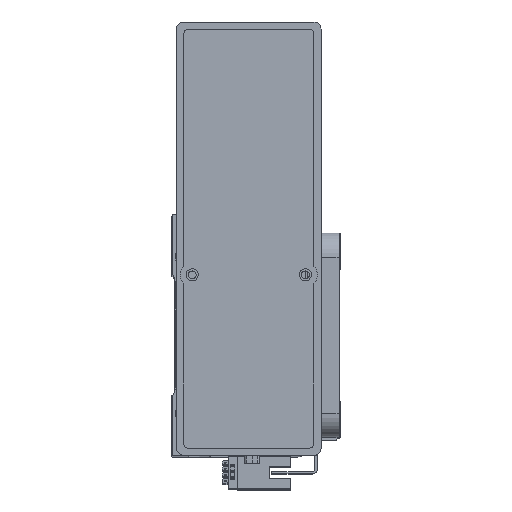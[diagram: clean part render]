
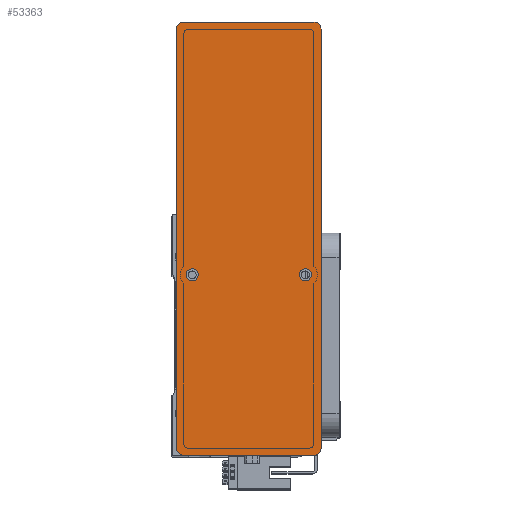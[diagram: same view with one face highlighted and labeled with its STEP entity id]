
A CAD part, top view. The second image highlights one B-rep face of the part: STEP entity #53363.
In plain terms, the highlighted planar face has unit normal (0, 0, 1) as drawn and (0, 0, -1) by its records, which use the part's own axes.
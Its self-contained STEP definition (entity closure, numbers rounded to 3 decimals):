
#23 = AXIS2_PLACEMENT_3D ( 'NONE', #47850, #22494, #52107 ) ;
#90 = CARTESIAN_POINT ( 'NONE',  ( 90., -30., 0. ) ) ;
#143 = VERTEX_POINT ( 'NONE', #48020 ) ;
#892 = ORIENTED_EDGE ( 'NONE', *, *, #28070, .F. ) ;
#942 = DIRECTION ( 'NONE',  ( 1., 0., 0. ) ) ;
#974 = CARTESIAN_POINT ( 'NONE',  ( -15., -23.5, 0. ) ) ;
#985 = VERTEX_POINT ( 'NONE', #19005 ) ;
#1323 = DIRECTION ( 'NONE',  ( 0., 0., 1. ) ) ;
#1537 = ORIENTED_EDGE ( 'NONE', *, *, #14847, .F. ) ;
#2376 = CIRCLE ( 'NONE', #36426, 3. ) ;
#2584 = EDGE_CURVE ( 'NONE', #43165, #26332, #24792, .T. ) ;
#3007 = VECTOR ( 'NONE', #38160, 1000. ) ;
#3748 = CARTESIAN_POINT ( 'NONE',  ( -17.5, 23.5, 0. ) ) ;
#4316 = DIRECTION ( 'NONE',  ( 0., 0., -1. ) ) ;
#4360 = ORIENTED_EDGE ( 'NONE', *, *, #39992, .T. ) ;
#4397 = LINE ( 'NONE', #8331, #48076 ) ;
#5241 = DIRECTION ( 'NONE',  ( -1., 0., 0. ) ) ;
#7582 = EDGE_CURVE ( 'NONE', #27187, #41837, #46904, .T. ) ;
#7603 = CARTESIAN_POINT ( 'NONE',  ( 87., 27., 0. ) ) ;
#7925 = VERTEX_POINT ( 'NONE', #40300 ) ;
#8331 = CARTESIAN_POINT ( 'NONE',  ( 90., 30., 0. ) ) ;
#8343 = EDGE_CURVE ( 'NONE', #28397, #41837, #4397, .T. ) ;
#8919 = LINE ( 'NONE', #20552, #29985 ) ;
#9916 = CARTESIAN_POINT ( 'NONE',  ( -87., 30., 0. ) ) ;
#11342 = VERTEX_POINT ( 'NONE', #40703 ) ;
#11855 = DIRECTION ( 'NONE',  ( 1., 0., 0. ) ) ;
#12072 = ORIENTED_EDGE ( 'NONE', *, *, #34453, .F. ) ;
#12089 = DIRECTION ( 'NONE',  ( 0., 0., -1. ) ) ;
#13204 = EDGE_CURVE ( 'NONE', #7925, #143, #26282, .T. ) ;
#14836 = CIRCLE ( 'NONE', #23, 2.5 ) ;
#14847 = EDGE_CURVE ( 'NONE', #26332, #43165, #14836, .T. ) ;
#15302 = EDGE_CURVE ( 'NONE', #11342, #46276, #41232, .T. ) ;
#15458 = AXIS2_PLACEMENT_3D ( 'NONE', #37362, #12089, #41662 ) ;
#15770 = VERTEX_POINT ( 'NONE', #49651 ) ;
#17092 = CARTESIAN_POINT ( 'NONE',  ( 90., -30., 0. ) ) ;
#17894 = EDGE_CURVE ( 'NONE', #28397, #46276, #26604, .T. ) ;
#18023 = DIRECTION ( 'NONE',  ( 0., 0., -1. ) ) ;
#18167 = PLANE ( 'NONE',  #31287 ) ;
#18181 = AXIS2_PLACEMENT_3D ( 'NONE', #46412, #21071, #50684 ) ;
#18516 = CARTESIAN_POINT ( 'NONE',  ( -87., -30., 0. ) ) ;
#19005 = CARTESIAN_POINT ( 'NONE',  ( 87., -30., 0. ) ) ;
#20324 = AXIS2_PLACEMENT_3D ( 'NONE', #974, #30542, #5241 ) ;
#20552 = CARTESIAN_POINT ( 'NONE',  ( -90., -30., 0. ) ) ;
#21071 = DIRECTION ( 'NONE',  ( 0., 0., -1. ) ) ;
#21352 = DIRECTION ( 'NONE',  ( 0., 1., 0. ) ) ;
#21943 = CARTESIAN_POINT ( 'NONE',  ( -90., 27., 0. ) ) ;
#22008 = AXIS2_PLACEMENT_3D ( 'NONE', #43339, #18023, #47622 ) ;
#22010 = EDGE_LOOP ( 'NONE', ( #1537, #35645 ) ) ;
#22494 = DIRECTION ( 'NONE',  ( 0., 0., -1. ) ) ;
#22531 = AXIS2_PLACEMENT_3D ( 'NONE', #7603, #37138, #11855 ) ;
#24585 = EDGE_LOOP ( 'NONE', ( #892, #28817 ) ) ;
#24792 = CIRCLE ( 'NONE', #22008, 2.5 ) ;
#25440 = LINE ( 'NONE', #90, #3007 ) ;
#25762 = CARTESIAN_POINT ( 'NONE',  ( 90., 27., 0. ) ) ;
#26245 = DIRECTION ( 'NONE',  ( 0., 0., -1. ) ) ;
#26282 = CIRCLE ( 'NONE', #20324, 2.5 ) ;
#26332 = VERTEX_POINT ( 'NONE', #3748 ) ;
#26600 = CARTESIAN_POINT ( 'NONE',  ( 0., 0., 0. ) ) ;
#26604 = CIRCLE ( 'NONE', #22531, 3. ) ;
#27187 = VERTEX_POINT ( 'NONE', #21943 ) ;
#28070 = EDGE_CURVE ( 'NONE', #143, #7925, #49214, .T. ) ;
#28397 = VERTEX_POINT ( 'NONE', #31751 ) ;
#28817 = ORIENTED_EDGE ( 'NONE', *, *, #13204, .F. ) ;
#28986 = EDGE_LOOP ( 'NONE', ( #43776, #54162, #12072, #4360, #29686, #50594, #44726, #30754 ) ) ;
#29597 = CARTESIAN_POINT ( 'NONE',  ( -87., -27., 0. ) ) ;
#29686 = ORIENTED_EDGE ( 'NONE', *, *, #43902, .F. ) ;
#29985 = VECTOR ( 'NONE', #54385, 1000. ) ;
#30542 = DIRECTION ( 'NONE',  ( 0., 0., -1. ) ) ;
#30754 = ORIENTED_EDGE ( 'NONE', *, *, #17894, .T. ) ;
#30889 = DIRECTION ( 'NONE',  ( 1., 0., 0. ) ) ;
#31287 = AXIS2_PLACEMENT_3D ( 'NONE', #26600, #1323, #30889 ) ;
#31751 = CARTESIAN_POINT ( 'NONE',  ( 87., 30., 0. ) ) ;
#32047 = FACE_OUTER_BOUND ( 'NONE', #28986, .T. ) ;
#33866 = DIRECTION ( 'NONE',  ( 1., 0., 0. ) ) ;
#34453 = EDGE_CURVE ( 'NONE', #50312, #985, #25440, .T. ) ;
#35645 = ORIENTED_EDGE ( 'NONE', *, *, #2584, .F. ) ;
#36426 = AXIS2_PLACEMENT_3D ( 'NONE', #51660, #26245, #942 ) ;
#37138 = DIRECTION ( 'NONE',  ( 0., 0., -1. ) ) ;
#37362 = CARTESIAN_POINT ( 'NONE',  ( -15., -23.5, 0. ) ) ;
#37840 = DIRECTION ( 'NONE',  ( -1., 0., 0. ) ) ;
#38160 = DIRECTION ( 'NONE',  ( 1., 0., 0. ) ) ;
#39255 = AXIS2_PLACEMENT_3D ( 'NONE', #29597, #4316, #33866 ) ;
#39839 = VECTOR ( 'NONE', #21352, 1000. ) ;
#39992 = EDGE_CURVE ( 'NONE', #50312, #15770, #44516, .T. ) ;
#40300 = CARTESIAN_POINT ( 'NONE',  ( -12.5, -23.5, 0. ) ) ;
#40703 = CARTESIAN_POINT ( 'NONE',  ( 90., -27., 0. ) ) ;
#41232 = LINE ( 'NONE', #17092, #39839 ) ;
#41662 = DIRECTION ( 'NONE',  ( -1., 0., 0. ) ) ;
#41837 = VERTEX_POINT ( 'NONE', #9916 ) ;
#43165 = VERTEX_POINT ( 'NONE', #52815 ) ;
#43291 = FACE_BOUND ( 'NONE', #24585, .T. ) ;
#43339 = CARTESIAN_POINT ( 'NONE',  ( -15., 23.5, 0. ) ) ;
#43776 = ORIENTED_EDGE ( 'NONE', *, *, #15302, .F. ) ;
#43902 = EDGE_CURVE ( 'NONE', #27187, #15770, #8919, .T. ) ;
#44516 = CIRCLE ( 'NONE', #39255, 3. ) ;
#44726 = ORIENTED_EDGE ( 'NONE', *, *, #8343, .F. ) ;
#46276 = VERTEX_POINT ( 'NONE', #25762 ) ;
#46412 = CARTESIAN_POINT ( 'NONE',  ( -87., 27., 0. ) ) ;
#46904 = CIRCLE ( 'NONE', #18181, 3. ) ;
#47622 = DIRECTION ( 'NONE',  ( -1., 0., 0. ) ) ;
#47850 = CARTESIAN_POINT ( 'NONE',  ( -15., 23.5, 0. ) ) ;
#48020 = CARTESIAN_POINT ( 'NONE',  ( -17.5, -23.5, 0. ) ) ;
#48076 = VECTOR ( 'NONE', #37840, 1000. ) ;
#49214 = CIRCLE ( 'NONE', #15458, 2.5 ) ;
#49651 = CARTESIAN_POINT ( 'NONE',  ( -90., -27., 0. ) ) ;
#49856 = EDGE_CURVE ( 'NONE', #11342, #985, #2376, .T. ) ;
#50312 = VERTEX_POINT ( 'NONE', #18516 ) ;
#50594 = ORIENTED_EDGE ( 'NONE', *, *, #7582, .T. ) ;
#50684 = DIRECTION ( 'NONE',  ( 1., 0., 0. ) ) ;
#51660 = CARTESIAN_POINT ( 'NONE',  ( 87., -27., 0. ) ) ;
#52107 = DIRECTION ( 'NONE',  ( -1., 0., 0. ) ) ;
#52815 = CARTESIAN_POINT ( 'NONE',  ( -12.5, 23.5, 0. ) ) ;
#53363 = ADVANCED_FACE ( 'NONE', ( #54624, #43291, #32047 ), #18167, .F. ) ;
#54162 = ORIENTED_EDGE ( 'NONE', *, *, #49856, .T. ) ;
#54385 = DIRECTION ( 'NONE',  ( 0., -1., 0. ) ) ;
#54624 = FACE_BOUND ( 'NONE', #22010, .T. ) ;
